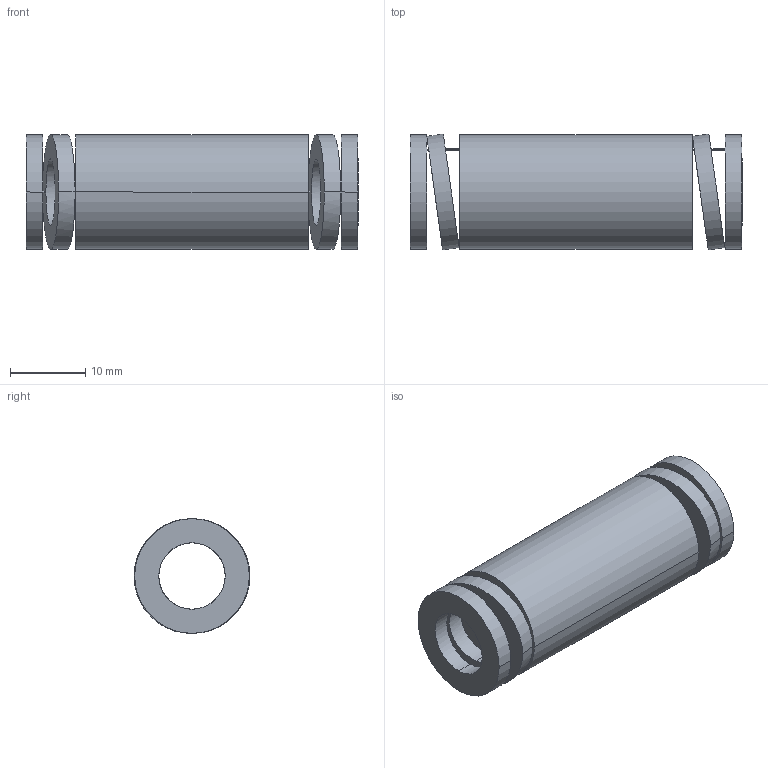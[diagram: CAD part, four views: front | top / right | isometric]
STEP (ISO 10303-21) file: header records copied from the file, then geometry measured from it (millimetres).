
FILE_DESCRIPTION(('CATIA V5 STEP Exchange'),'2;1');
FILE_NAME('C:\Users\Utente\Desktop\IO LAVORO\3D X SITO CF\X SITO\3D files 392B\392-B16-044.stp','2021-08-12T14:06:49+00:00',('none'),('none'),'CATIA Version 5 Release 20 GA (IN-10)','CATIA V5 STEP AP203','none');
FILE_SCHEMA(('CONFIG_CONTROL_DESIGN'));
Length unit declared in the file: millimetre
Products named in the file (1): 392-B16-044
Bounding box: 44 x 15.36 x 15.2 mm (x, y, z)
Volume: 4774.8 mm3; surface area: 4193.5 mm2
Topology: 1 solids, 1 shells, 38 faces, 92 edges, 64 vertices
Faces by surface type: cylinder 28, plane 10
Entity records: 1596 total; most frequent: CARTESIAN_POINT 709, ORIENTED_EDGE 184, DIRECTION 128, EDGE_CURVE 92, VERTEX_POINT 64, AXIS2_PLACEMENT_3D 63, EDGE_LOOP 56, B_SPLINE_CURVE_WITH_KNOTS 40
